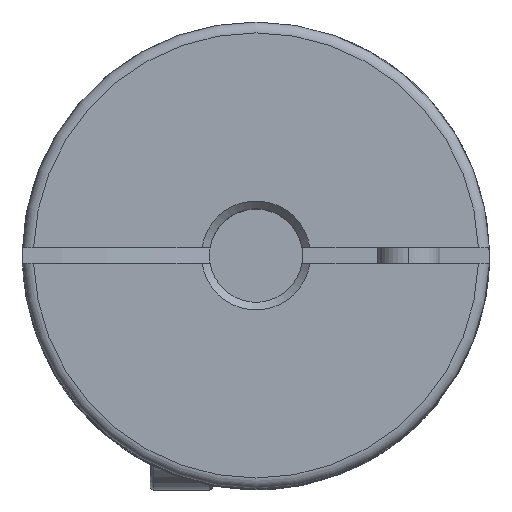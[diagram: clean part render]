
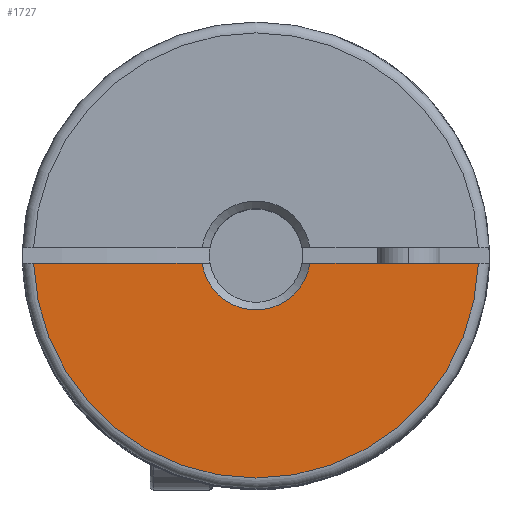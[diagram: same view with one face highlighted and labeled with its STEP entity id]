
A CAD part, top view. The second image highlights one B-rep face of the part: STEP entity #1727.
In plain terms, the highlighted planar face has unit normal (0, 0, 1).
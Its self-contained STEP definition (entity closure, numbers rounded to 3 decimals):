
#662 = CARTESIAN_POINT ( 'NONE',  ( 14.291, -0.5, 22.35 ) ) ;
#1727 = ADVANCED_FACE ( 'NONE', ( #3943 ), #4479, .T. ) ;
#2122 = AXIS2_PLACEMENT_3D ( 'NONE', #4478, #4483, #4484 ) ;
#2483 = AXIS2_PLACEMENT_3D ( 'NONE', #7409, #7410, #7411 ) ;
#2484 = AXIS2_PLACEMENT_3D ( 'NONE', #7414, #7415, #7416 ) ;
#3585 = EDGE_LOOP ( 'NONE', ( #5464, #5465, #5466, #5467 ) ) ;
#3943 = FACE_OUTER_BOUND ( 'NONE', #3585, .T. ) ;
#4478 = CARTESIAN_POINT ( 'NONE',  ( 0., 0., 22.35 ) ) ;
#4479 = PLANE ( 'NONE',  #2122 ) ;
#4483 = DIRECTION ( 'NONE',  ( 0., 0., 1. ) ) ;
#4484 = DIRECTION ( 'NONE',  ( 1., 0., 0. ) ) ;
#4997 = VERTEX_POINT ( 'NONE', #662 ) ;
#5132 = VERTEX_POINT ( 'NONE', #8039 ) ;
#5162 = VERTEX_POINT ( 'NONE', #8227 ) ;
#5290 = VERTEX_POINT ( 'NONE', #8089 ) ;
#5464 = ORIENTED_EDGE ( 'NONE', *, *, #6790, .T. ) ;
#5465 = ORIENTED_EDGE ( 'NONE', *, *, #6791, .T. ) ;
#5466 = ORIENTED_EDGE ( 'NONE', *, *, #6792, .T. ) ;
#5467 = ORIENTED_EDGE ( 'NONE', *, *, #6793, .T. ) ;
#6053 = CIRCLE ( 'NONE', #2483, 3.5 ) ;
#6059 = LINE ( 'NONE', #7404, #6060 ) ;
#6060 = VECTOR ( 'NONE', #7406, 1000. ) ;
#6061 = LINE ( 'NONE', #7405, #6063 ) ;
#6062 = CIRCLE ( 'NONE', #2484, 14.3 ) ;
#6063 = VECTOR ( 'NONE', #7363, 1000. ) ;
#6790 = EDGE_CURVE ( 'NONE', #4997, #5162, #6059, .T. ) ;
#6791 = EDGE_CURVE ( 'NONE', #5162, #5290, #6053, .T. ) ;
#6792 = EDGE_CURVE ( 'NONE', #5290, #5132, #6061, .T. ) ;
#6793 = EDGE_CURVE ( 'NONE', #5132, #4997, #6062, .T. ) ;
#7363 = DIRECTION ( 'NONE',  ( -1., 0., 0. ) ) ;
#7404 = CARTESIAN_POINT ( 'NONE',  ( 0., -0.5, 22.35 ) ) ;
#7405 = CARTESIAN_POINT ( 'NONE',  ( 0., -0.5, 22.35 ) ) ;
#7406 = DIRECTION ( 'NONE',  ( -1., 0., 0. ) ) ;
#7409 = CARTESIAN_POINT ( 'NONE',  ( 0., 0., 22.35 ) ) ;
#7410 = DIRECTION ( 'NONE',  ( 0., 0., -1. ) ) ;
#7411 = DIRECTION ( 'NONE',  ( 1., 0., 0. ) ) ;
#7414 = CARTESIAN_POINT ( 'NONE',  ( 0., 0., 22.35 ) ) ;
#7415 = DIRECTION ( 'NONE',  ( 0., 0., 1. ) ) ;
#7416 = DIRECTION ( 'NONE',  ( 1., 0., 0. ) ) ;
#8039 = CARTESIAN_POINT ( 'NONE',  ( -14.291, -0.5, 22.35 ) ) ;
#8089 = CARTESIAN_POINT ( 'NONE',  ( -3.464, -0.5, 22.35 ) ) ;
#8227 = CARTESIAN_POINT ( 'NONE',  ( 3.464, -0.5, 22.35 ) ) ;
